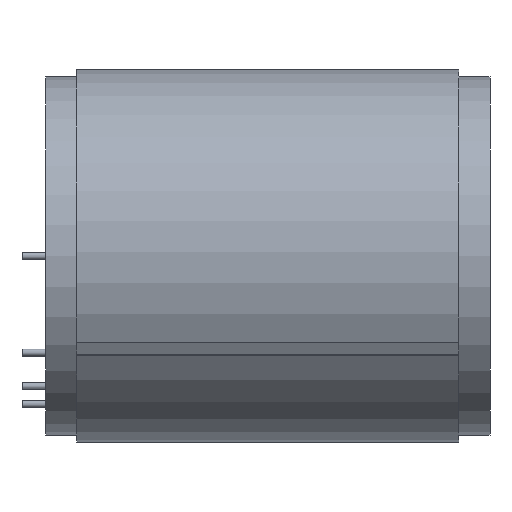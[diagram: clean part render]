
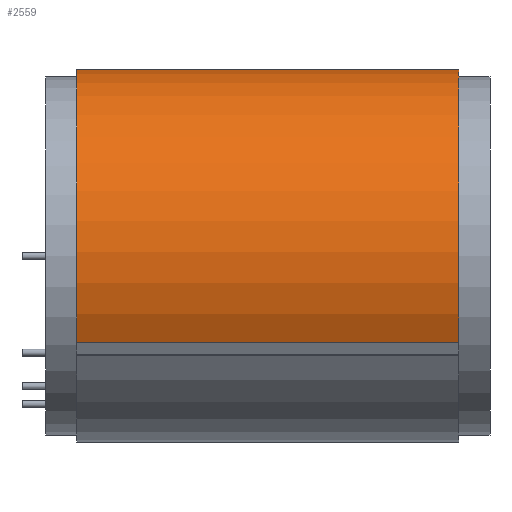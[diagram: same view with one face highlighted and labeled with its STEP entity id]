
A CAD part, left-side view. The second image highlights one B-rep face of the part: STEP entity #2559.
In plain terms, the highlighted cylindrical face has radius 39 mm (diameter 78 mm), a partial arc.
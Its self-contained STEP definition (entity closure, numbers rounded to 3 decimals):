
#169 = ORIENTED_EDGE ( 'NONE', *, *, #1708, .F. ) ;
#170 = DIRECTION ( 'NONE',  ( 0., 1., 0. ) ) ;
#290 = CARTESIAN_POINT ( 'NONE',  ( -34.832, 4.017, 58.419 ) ) ;
#300 = CARTESIAN_POINT ( 'NONE',  ( -1.845, 84.017, 115.553 ) ) ;
#339 = CARTESIAN_POINT ( 'NONE',  ( -34.832, 84.017, 58.419 ) ) ;
#516 = DIRECTION ( 'NONE',  ( 0., 0., -1. ) ) ;
#533 = LINE ( 'NONE', #2997, #2249 ) ;
#644 = ORIENTED_EDGE ( 'NONE', *, *, #2452, .T. ) ;
#694 = CARTESIAN_POINT ( 'NONE',  ( -0.32, 4.017, 76.583 ) ) ;
#1045 = EDGE_CURVE ( 'NONE', #3003, #2968, #533, .T. ) ;
#1091 = DIRECTION ( 'NONE',  ( 0., -1., 0. ) ) ;
#1285 = DIRECTION ( 'NONE',  ( 0., 1., 0. ) ) ;
#1359 = VERTEX_POINT ( 'NONE', #3128 ) ;
#1490 = VECTOR ( 'NONE', #170, 1000. ) ;
#1625 = FACE_OUTER_BOUND ( 'NONE', #1707, .T. ) ;
#1707 = EDGE_LOOP ( 'NONE', ( #169, #3072, #644, #2134 ) ) ;
#1708 = EDGE_CURVE ( 'NONE', #3003, #3478, #1972, .T. ) ;
#1891 = CARTESIAN_POINT ( 'NONE',  ( -0.32, 84.017, 76.583 ) ) ;
#1972 = CIRCLE ( 'NONE', #2365, 39. ) ;
#2133 = AXIS2_PLACEMENT_3D ( 'NONE', #1891, #1091, #516 ) ;
#2134 = ORIENTED_EDGE ( 'NONE', *, *, #2827, .T. ) ;
#2188 = DIRECTION ( 'NONE',  ( 0., -1., 0. ) ) ;
#2249 = VECTOR ( 'NONE', #2188, 1000. ) ;
#2335 = DIRECTION ( 'NONE',  ( 0., 1., 0. ) ) ;
#2363 = AXIS2_PLACEMENT_3D ( 'NONE', #694, #2335, #3420 ) ;
#2365 = AXIS2_PLACEMENT_3D ( 'NONE', #3105, #1285, #2598 ) ;
#2389 = LINE ( 'NONE', #2600, #1490 ) ;
#2452 = EDGE_CURVE ( 'NONE', #2968, #1359, #3445, .T. ) ;
#2559 = ADVANCED_FACE ( 'NONE', ( #1625 ), #3496, .T. ) ;
#2598 = DIRECTION ( 'NONE',  ( 0., 0., 1. ) ) ;
#2600 = CARTESIAN_POINT ( 'NONE',  ( -1.845, 84.017, 115.553 ) ) ;
#2827 = EDGE_CURVE ( 'NONE', #1359, #3478, #2389, .T. ) ;
#2968 = VERTEX_POINT ( 'NONE', #290 ) ;
#2997 = CARTESIAN_POINT ( 'NONE',  ( -34.832, 84.017, 58.419 ) ) ;
#3003 = VERTEX_POINT ( 'NONE', #339 ) ;
#3072 = ORIENTED_EDGE ( 'NONE', *, *, #1045, .T. ) ;
#3105 = CARTESIAN_POINT ( 'NONE',  ( -0.32, 84.017, 76.583 ) ) ;
#3128 = CARTESIAN_POINT ( 'NONE',  ( -1.845, 4.017, 115.553 ) ) ;
#3420 = DIRECTION ( 'NONE',  ( 0., 0., 1. ) ) ;
#3445 = CIRCLE ( 'NONE', #2363, 39. ) ;
#3478 = VERTEX_POINT ( 'NONE', #300 ) ;
#3496 = CYLINDRICAL_SURFACE ( 'NONE', #2133, 39. ) ;
